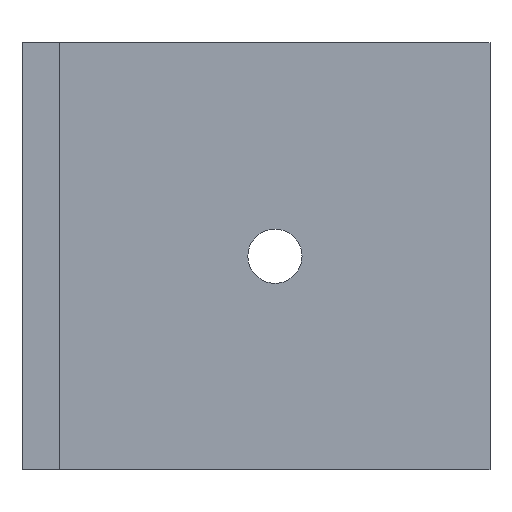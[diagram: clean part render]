
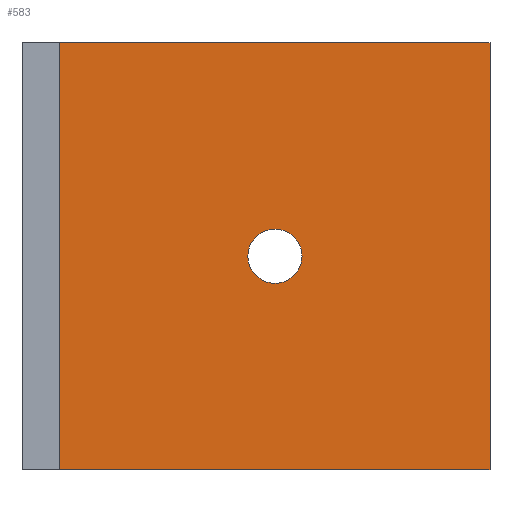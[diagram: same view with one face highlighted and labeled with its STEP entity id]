
A CAD part, top view. The second image highlights one B-rep face of the part: STEP entity #583.
In plain terms, the highlighted planar face has unit normal (0, 0, 1).
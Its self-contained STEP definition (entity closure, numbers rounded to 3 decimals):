
#44 = PLANE('',#45);
#45 = AXIS2_PLACEMENT_3D('',#46,#47,#48);
#46 = CARTESIAN_POINT('',(0.,-16.935,0.));
#47 = DIRECTION('',(0.,1.,0.));
#48 = DIRECTION('',(0.,0.,1.));
#100 = PLANE('',#101);
#101 = AXIS2_PLACEMENT_3D('',#102,#103,#104);
#102 = CARTESIAN_POINT('',(0.,16.935,0.));
#103 = DIRECTION('',(0.,1.,0.));
#104 = DIRECTION('',(0.,0.,1.));
#220 = VERTEX_POINT('',#221);
#221 = CARTESIAN_POINT('',(3.,-16.935,3.));
#235 = PLANE('',#236);
#236 = AXIS2_PLACEMENT_3D('',#237,#238,#239);
#237 = CARTESIAN_POINT('',(3.,-16.935,0.));
#238 = DIRECTION('',(1.,0.,0.));
#239 = DIRECTION('',(0.,0.,1.));
#247 = EDGE_CURVE('',#220,#248,#250,.T.);
#248 = VERTEX_POINT('',#249);
#249 = CARTESIAN_POINT('',(37.09,-16.935,3.));
#250 = SURFACE_CURVE('',#251,(#255,#262),.PCURVE_S1.);
#251 = LINE('',#252,#253);
#252 = CARTESIAN_POINT('',(0.,-16.935,3.));
#253 = VECTOR('',#254,1.);
#254 = DIRECTION('',(1.,0.,0.));
#255 = PCURVE('',#44,#256);
#256 = DEFINITIONAL_REPRESENTATION('',(#257),#261);
#257 = LINE('',#258,#259);
#258 = CARTESIAN_POINT('',(3.,0.));
#259 = VECTOR('',#260,1.);
#260 = DIRECTION('',(0.,1.));
#261 = ( GEOMETRIC_REPRESENTATION_CONTEXT(2) 
PARAMETRIC_REPRESENTATION_CONTEXT() REPRESENTATION_CONTEXT('2D SPACE',''
  ) );
#262 = PCURVE('',#263,#268);
#263 = PLANE('',#264);
#264 = AXIS2_PLACEMENT_3D('',#265,#266,#267);
#265 = CARTESIAN_POINT('',(0.,-16.935,3.));
#266 = DIRECTION('',(0.,0.,1.));
#267 = DIRECTION('',(1.,0.,0.));
#268 = DEFINITIONAL_REPRESENTATION('',(#269),#273);
#269 = LINE('',#270,#271);
#270 = CARTESIAN_POINT('',(0.,0.));
#271 = VECTOR('',#272,1.);
#272 = DIRECTION('',(1.,0.));
#273 = ( GEOMETRIC_REPRESENTATION_CONTEXT(2) 
PARAMETRIC_REPRESENTATION_CONTEXT() REPRESENTATION_CONTEXT('2D SPACE',''
  ) );
#289 = PLANE('',#290);
#290 = AXIS2_PLACEMENT_3D('',#291,#292,#293);
#291 = CARTESIAN_POINT('',(37.09,-16.935,0.));
#292 = DIRECTION('',(1.,0.,0.));
#293 = DIRECTION('',(0.,0.,1.));
#329 = VERTEX_POINT('',#330);
#330 = CARTESIAN_POINT('',(3.,16.935,3.));
#351 = EDGE_CURVE('',#329,#352,#354,.T.);
#352 = VERTEX_POINT('',#353);
#353 = CARTESIAN_POINT('',(37.09,16.935,3.));
#354 = SURFACE_CURVE('',#355,(#359,#366),.PCURVE_S1.);
#355 = LINE('',#356,#357);
#356 = CARTESIAN_POINT('',(0.,16.935,3.));
#357 = VECTOR('',#358,1.);
#358 = DIRECTION('',(1.,0.,0.));
#359 = PCURVE('',#100,#360);
#360 = DEFINITIONAL_REPRESENTATION('',(#361),#365);
#361 = LINE('',#362,#363);
#362 = CARTESIAN_POINT('',(3.,0.));
#363 = VECTOR('',#364,1.);
#364 = DIRECTION('',(0.,1.));
#365 = ( GEOMETRIC_REPRESENTATION_CONTEXT(2) 
PARAMETRIC_REPRESENTATION_CONTEXT() REPRESENTATION_CONTEXT('2D SPACE',''
  ) );
#366 = PCURVE('',#263,#367);
#367 = DEFINITIONAL_REPRESENTATION('',(#368),#372);
#368 = LINE('',#369,#370);
#369 = CARTESIAN_POINT('',(0.,33.87));
#370 = VECTOR('',#371,1.);
#371 = DIRECTION('',(1.,0.));
#372 = ( GEOMETRIC_REPRESENTATION_CONTEXT(2) 
PARAMETRIC_REPRESENTATION_CONTEXT() REPRESENTATION_CONTEXT('2D SPACE',''
  ) );
#468 = CYLINDRICAL_SURFACE('',#469,2.15);
#469 = AXIS2_PLACEMENT_3D('',#470,#471,#472);
#470 = CARTESIAN_POINT('',(20.045,0.,3.));
#471 = DIRECTION('',(0.,0.,-1.));
#472 = DIRECTION('',(-1.,0.,0.));
#563 = EDGE_CURVE('',#248,#352,#564,.T.);
#564 = SURFACE_CURVE('',#565,(#569,#576),.PCURVE_S1.);
#565 = LINE('',#566,#567);
#566 = CARTESIAN_POINT('',(37.09,-16.935,3.));
#567 = VECTOR('',#568,1.);
#568 = DIRECTION('',(0.,1.,0.));
#569 = PCURVE('',#289,#570);
#570 = DEFINITIONAL_REPRESENTATION('',(#571),#575);
#571 = LINE('',#572,#573);
#572 = CARTESIAN_POINT('',(3.,0.));
#573 = VECTOR('',#574,1.);
#574 = DIRECTION('',(0.,-1.));
#575 = ( GEOMETRIC_REPRESENTATION_CONTEXT(2) 
PARAMETRIC_REPRESENTATION_CONTEXT() REPRESENTATION_CONTEXT('2D SPACE',''
  ) );
#576 = PCURVE('',#263,#577);
#577 = DEFINITIONAL_REPRESENTATION('',(#578),#582);
#578 = LINE('',#579,#580);
#579 = CARTESIAN_POINT('',(37.09,0.));
#580 = VECTOR('',#581,1.);
#581 = DIRECTION('',(0.,1.));
#582 = ( GEOMETRIC_REPRESENTATION_CONTEXT(2) 
PARAMETRIC_REPRESENTATION_CONTEXT() REPRESENTATION_CONTEXT('2D SPACE',''
  ) );
#583 = ADVANCED_FACE('',(#584,#608),#263,.T.);
#584 = FACE_BOUND('',#585,.T.);
#585 = EDGE_LOOP('',(#586,#587,#606,#607));
#586 = ORIENTED_EDGE('',*,*,#351,.F.);
#587 = ORIENTED_EDGE('',*,*,#588,.F.);
#588 = EDGE_CURVE('',#220,#329,#589,.T.);
#589 = SURFACE_CURVE('',#590,(#594,#600),.PCURVE_S1.);
#590 = LINE('',#591,#592);
#591 = CARTESIAN_POINT('',(3.,-16.935,3.));
#592 = VECTOR('',#593,1.);
#593 = DIRECTION('',(0.,1.,0.));
#594 = PCURVE('',#263,#595);
#595 = DEFINITIONAL_REPRESENTATION('',(#596),#599);
#596 = B_SPLINE_CURVE_WITH_KNOTS('',1,(#597,#598),.UNSPECIFIED.,.F.,.F.,
  (2,2),(0.,33.87),.PIECEWISE_BEZIER_KNOTS.);
#597 = CARTESIAN_POINT('',(3.,0.));
#598 = CARTESIAN_POINT('',(3.,33.87));
#599 = ( GEOMETRIC_REPRESENTATION_CONTEXT(2) 
PARAMETRIC_REPRESENTATION_CONTEXT() REPRESENTATION_CONTEXT('2D SPACE',''
  ) );
#600 = PCURVE('',#235,#601);
#601 = DEFINITIONAL_REPRESENTATION('',(#602),#605);
#602 = B_SPLINE_CURVE_WITH_KNOTS('',1,(#603,#604),.UNSPECIFIED.,.F.,.F.,
  (2,2),(0.,33.87),.PIECEWISE_BEZIER_KNOTS.);
#603 = CARTESIAN_POINT('',(3.,0.));
#604 = CARTESIAN_POINT('',(3.,-33.87));
#605 = ( GEOMETRIC_REPRESENTATION_CONTEXT(2) 
PARAMETRIC_REPRESENTATION_CONTEXT() REPRESENTATION_CONTEXT('2D SPACE',''
  ) );
#606 = ORIENTED_EDGE('',*,*,#247,.T.);
#607 = ORIENTED_EDGE('',*,*,#563,.T.);
#608 = FACE_BOUND('',#609,.T.);
#609 = EDGE_LOOP('',(#610));
#610 = ORIENTED_EDGE('',*,*,#611,.T.);
#611 = EDGE_CURVE('',#612,#612,#614,.T.);
#612 = VERTEX_POINT('',#613);
#613 = CARTESIAN_POINT('',(17.895,0.,3.));
#614 = SURFACE_CURVE('',#615,(#620,#631),.PCURVE_S1.);
#615 = CIRCLE('',#616,2.15);
#616 = AXIS2_PLACEMENT_3D('',#617,#618,#619);
#617 = CARTESIAN_POINT('',(20.045,0.,3.));
#618 = DIRECTION('',(0.,0.,-1.));
#619 = DIRECTION('',(-1.,0.,0.));
#620 = PCURVE('',#263,#621);
#621 = DEFINITIONAL_REPRESENTATION('',(#622),#630);
#622 = ( BOUNDED_CURVE() B_SPLINE_CURVE(2,(#623,#624,#625,#626,#627,#628
,#629),.UNSPECIFIED.,.T.,.F.) B_SPLINE_CURVE_WITH_KNOTS((1,2,2,2,2,1),(
    -2.094,0.,2.094,4.189,6.283,
8.378),.UNSPECIFIED.) CURVE() GEOMETRIC_REPRESENTATION_ITEM() 
RATIONAL_B_SPLINE_CURVE((1.,0.5,1.,0.5,1.,0.5,1.)) REPRESENTATION_ITEM(
  '') );
#623 = CARTESIAN_POINT('',(17.895,16.935));
#624 = CARTESIAN_POINT('',(17.895,20.659));
#625 = CARTESIAN_POINT('',(21.12,18.797));
#626 = CARTESIAN_POINT('',(24.345,16.935));
#627 = CARTESIAN_POINT('',(21.12,15.073));
#628 = CARTESIAN_POINT('',(17.895,13.211));
#629 = CARTESIAN_POINT('',(17.895,16.935));
#630 = ( GEOMETRIC_REPRESENTATION_CONTEXT(2) 
PARAMETRIC_REPRESENTATION_CONTEXT() REPRESENTATION_CONTEXT('2D SPACE',''
  ) );
#631 = PCURVE('',#468,#632);
#632 = DEFINITIONAL_REPRESENTATION('',(#633),#637);
#633 = LINE('',#634,#635);
#634 = CARTESIAN_POINT('',(0.,0.));
#635 = VECTOR('',#636,1.);
#636 = DIRECTION('',(1.,0.));
#637 = ( GEOMETRIC_REPRESENTATION_CONTEXT(2) 
PARAMETRIC_REPRESENTATION_CONTEXT() REPRESENTATION_CONTEXT('2D SPACE',''
  ) );
